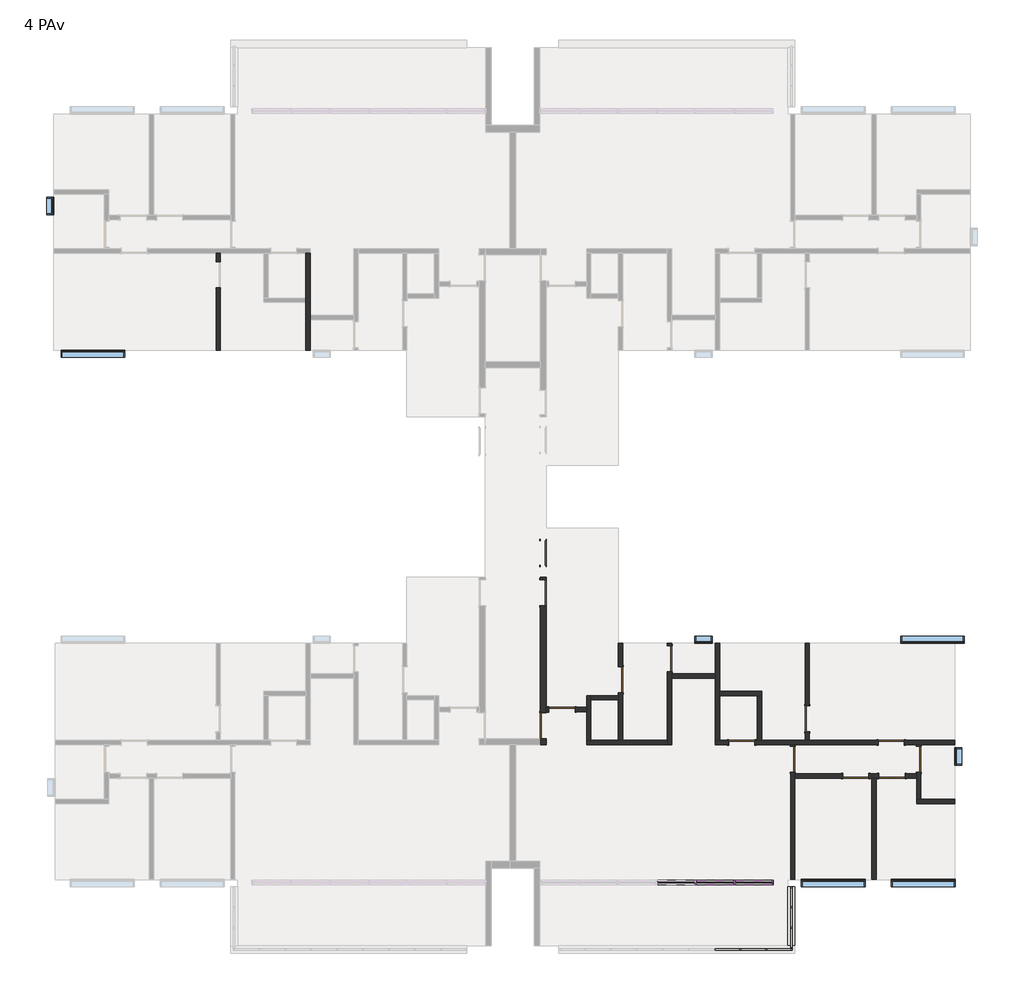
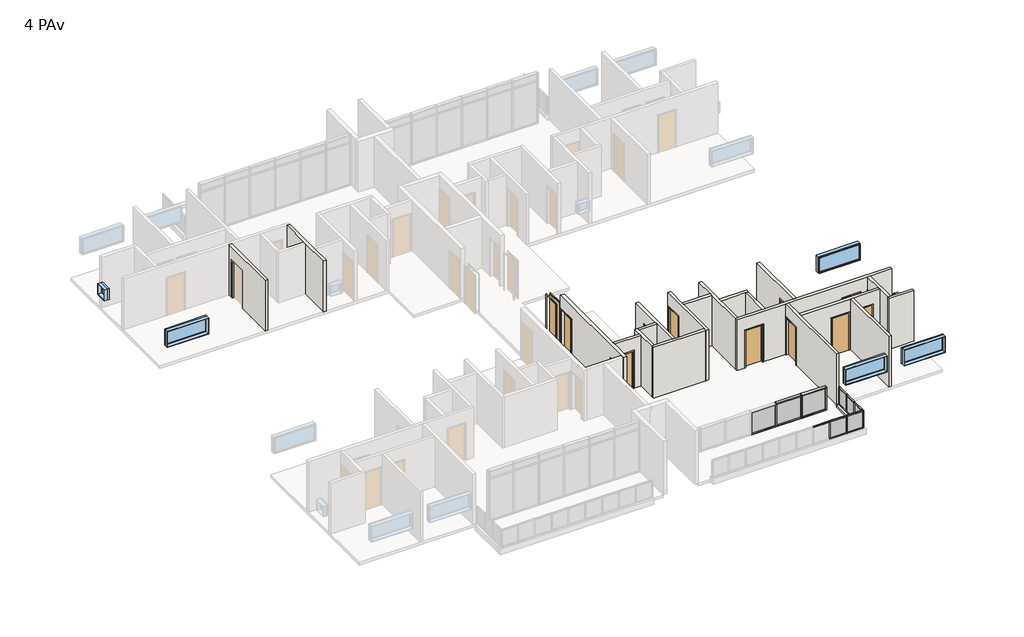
# One storey, part 3 of 6: 26 members, 21 walls, 13 doors, 8 plates, 7 windows.
"""IFC4 building model written with IfcOpenShell, lengths in millimetres."""

from ifc_helpers import new_model, si_unit, frame, origin, place, context, project, spatial, polyline, outline, extrude, faceted_brep, transform, mapped, element, save
from components import door_85_x_210_7675e995, door_90_x_210_ee935524, door_90_x_210_565370b3, door_90_x_210_fbafd55c, montante_retangular_50_mm_quadrado_4acded50, montante_retangular_50_mm_quadrado_237d7072, montante_retangular_50_mm_quadrado_84e40a56, montante_retangular_50_mm_quadrado_3d152aff, montante_retangular_50_mm_quadrado_a01005a4, montante_retangular_50_mm_quadrado_ddd80bd7, montante_retangular_50_x_150_mm_6217edde, montante_retangular_50_x_150_mm_a22249d7, montante_retangular_50_x_150_mm_d0db7fae, montante_retangular_50_x_150_mm_1e3c48d4, painel_do_sistema_57ceaf50, painel_do_sistema_ab0ed719, painel_do_sistema_0196877a, painel_do_sistema_2aa81470, painel_do_sistema_7de0e0b4, painel_do_sistema_09324d20, window_0610_x_0610_mm_da1d4716, window_0610_x_0610_mm_b5667cc9, window_220_x_90_84e01c73

model = new_model("IFC4")

# Units and contexts
model_context = context("Model", 3, world=origin())
ifc_project = project(units=[si_unit("LENGTHUNIT", "METRE", prefix="MILLI")], contexts=[model_context])

# Site, building, storey
site = spatial("IfcSite", under=ifc_project)
building = spatial("IfcBuilding", under=site)
storey = spatial("IfcBuildingStorey", under=building, Name="4 PAv", Elevation=12000.0)

# Doors
placement = place(None, origin())
door_85_x_210_shape = door_85_x_210_7675e995(model_context)
element("IfcDoor", 1, ObjectType="M_Descarga simples : 85 x 210", at=placement, inside=storey, context=model_context, shape_type="MappedRepresentation", body=[
    mapped(door_85_x_210_shape, transform((23.7734258, -1171.3385375, 12000.0), x_axis=(0.0, -1.0, 0.0), y_axis=(1.0, 0.0, 0.0), z_axis=(0.0, 0.0, 1.0))),
])
door_90_x_210_shape = door_90_x_210_ee935524(model_context)
element("IfcDoor", 2, ObjectType="M_Descarga simples : 90 x 210", at=placement, inside=storey, context=model_context, shape_type="MappedRepresentation", body=[
    mapped(door_90_x_210_shape, transform((12063.7734258, -8861.3385375, 12000.0), x_axis=(-1.0, 0.0, 0.0), y_axis=(0.0, -1.0, 0.0), z_axis=(0.0, 0.0, 1.0))),
])
element("IfcDoor", 3, ObjectType="M_Descarga simples : 90 x 210", at=placement, inside=storey, context=model_context, shape_type="MappedRepresentation", body=[
    mapped(door_90_x_210_shape, transform((12043.7734258, -7711.3385375, 12000.0), x_axis=(1.0, 0.0, 0.0), y_axis=(0.0, 1.0, 0.0), z_axis=(0.0, 0.0, 1.0))),
])
element("IfcDoor", 4, ObjectType="M_Descarga simples : 90 x 210", at=placement, inside=storey, context=model_context, shape_type="MappedRepresentation", body=[
    mapped(door_90_x_210_shape, transform((6883.7734258, -7711.3385375, 12000.0), x_axis=(1.0, 0.0, 0.0), y_axis=(0.0, 1.0, 0.0), z_axis=(0.0, 0.0, 1.0))),
])
door_90_x_210_2_shape = door_90_x_210_565370b3(model_context)
element("IfcDoor", 5, ObjectType="M_Descarga simples : 90 x 210", at=placement, inside=storey, context=model_context, shape_type="MappedRepresentation", body=[
    mapped(door_90_x_210_2_shape, transform((673.7734258, -6571.3385375, 12000.0), x_axis=(-1.0, 0.0, 0.0), y_axis=(0.0, -1.0, 0.0), z_axis=(0.0, 0.0, 1.0))),
])
element("IfcDoor", 6, ObjectType="M_Descarga simples : 90 x 210", at=placement, inside=storey, context=model_context, shape_type="MappedRepresentation", body=[
    mapped(door_90_x_210_2_shape, transform((2698.7734258, -5536.3385375, 12000.0), x_axis=(0.0, 1.0, 0.0), y_axis=(-1.0, 0.0, 0.0), z_axis=(0.0, 0.0, 1.0))),
])
element("IfcDoor", 7, ObjectType="M_Descarga simples : 90 x 210", at=placement, inside=storey, context=model_context, shape_type="MappedRepresentation", body=[
    mapped(door_90_x_210_2_shape, transform((4388.7734258, -4811.3385375, 12000.0), x_axis=(0.0, 1.0, 0.0), y_axis=(-1.0, 0.0, 0.0), z_axis=(0.0, 0.0, 1.0))),
])
element("IfcDoor", 8, ObjectType="M_Descarga simples : 90 x 210", at=placement, inside=storey, context=model_context, shape_type="MappedRepresentation", body=[
    mapped(door_90_x_210_2_shape, transform((9138.7734258, -6886.3385375, 12000.0), x_axis=(0.0, -1.0, 0.0), y_axis=(1.0, 0.0, 0.0), z_axis=(0.0, 0.0, 1.0))),
])
element("IfcDoor", 9, ObjectType="M_Descarga simples : 90 x 210", at=placement, inside=storey, context=model_context, shape_type="MappedRepresentation", body=[
    mapped(door_90_x_210_2_shape, transform((8638.7734258, -8286.3385375, 12000.0), x_axis=(0.0, 1.0, 0.0), y_axis=(-1.0, 0.0, 0.0), z_axis=(0.0, 0.0, 1.0))),
])
element("IfcDoor", 10, ObjectType="M_Descarga simples : 90 x 210", at=placement, inside=storey, context=model_context, shape_type="MappedRepresentation", body=[
    mapped(door_90_x_210_2_shape, transform((12988.7734258, -8286.3385375, 12000.0), x_axis=(0.0, 1.0, 0.0), y_axis=(-1.0, 0.0, 0.0), z_axis=(0.0, 0.0, 1.0))),
])
element("IfcDoor", 11, ObjectType="M_Descarga simples : 90 x 210", at=placement, inside=storey, context=model_context, shape_type="MappedRepresentation", body=[
    mapped(door_90_x_210_2_shape, transform((10813.7734258, -8861.3385375, 12000.0), x_axis=(1.0, 0.0, 0.0), y_axis=(0.0, 1.0, 0.0), z_axis=(0.0, 0.0, 1.0))),
])
door_90_x_210_3_shape = door_90_x_210_fbafd55c(model_context)
element("IfcDoor", 12, ObjectType="M_Descarga simples : 90 x 210", at=placement, inside=storey, context=model_context, shape_type="MappedRepresentation", body=[
    mapped(door_90_x_210_3_shape, transform((23.7734258, -2546.3385375, 12000.0), x_axis=(0.0, 1.0, 0.0), y_axis=(-1.0, 0.0, 0.0), z_axis=(0.0, 0.0, 1.0))),
])
element("IfcDoor", 13, ObjectType="M_Descarga simples : 90 x 210", at=placement, inside=storey, context=model_context, shape_type="MappedRepresentation", body=[
    mapped(door_90_x_210_3_shape, transform((23.7734258, -7125.9292512, 12000.0), x_axis=(0.0, -1.0, 0.0), y_axis=(1.0, 0.0, 0.0), z_axis=(0.0, 0.0, 1.0))),
])

# Members
montante_retangular_50_mm_quadrado_shape = montante_retangular_50_mm_quadrado_4acded50(model_context)
element("IfcMember", 14, ObjectType="Montante retangular : 50 mm Quadrado", at=placement, inside=storey, context=model_context, shape_type="MappedRepresentation", body=[
    mapped(montante_retangular_50_mm_quadrado_shape, transform((8563.7734258, -14856.3385375, 13150.0), x_axis=(0.0, 0.0, 1.0), y_axis=(0.0, -1.0, 0.0), z_axis=(1.0, 0.0, 0.0))),
])
montante_retangular_50_mm_quadrado_2_shape = montante_retangular_50_mm_quadrado_237d7072(model_context)
element("IfcMember", 15, ObjectType="Montante retangular : 50 mm Quadrado", at=placement, inside=storey, context=model_context, shape_type="MappedRepresentation", body=[
    mapped(montante_retangular_50_mm_quadrado_2_shape, transform((6798.7734258, -14856.3385375, 13150.0), x_axis=(0.0, 0.0, 1.0), y_axis=(0.0, -1.0, 0.0), z_axis=(1.0, 0.0, 0.0))),
])
element("IfcMember", 16, ObjectType="Montante retangular : 50 mm Quadrado", at=placement, inside=storey, context=model_context, shape_type="MappedRepresentation", body=[
    mapped(montante_retangular_50_mm_quadrado_2_shape, transform((7693.7734258, -14856.3385375, 13150.0), x_axis=(0.0, 0.0, 1.0), y_axis=(0.0, -1.0, 0.0), z_axis=(1.0, 0.0, 0.0))),
])
element("IfcMember", 17, ObjectType="Montante retangular : 50 mm Quadrado", at=placement, inside=storey, context=model_context, shape_type="MappedRepresentation", body=[
    mapped(montante_retangular_50_mm_quadrado_shape, transform((7743.7734258, -14856.3385375, 12150.0), x_axis=(0.0, 0.0, -1.0), y_axis=(0.0, -1.0, 0.0), z_axis=(-1.0, 0.0, 0.0))),
])
element("IfcMember", 18, ObjectType="Montante retangular : 50 mm Quadrado", at=placement, inside=storey, context=model_context, shape_type="MappedRepresentation", body=[
    mapped(montante_retangular_50_mm_quadrado_2_shape, transform((6848.7734258, -14856.3385375, 12150.0), x_axis=(0.0, 0.0, -1.0), y_axis=(0.0, -1.0, 0.0), z_axis=(-1.0, 0.0, 0.0))),
])
montante_retangular_50_mm_quadrado_3_shape = montante_retangular_50_mm_quadrado_84e40a56(model_context)
element("IfcMember", 19, ObjectType="Montante retangular : 50 mm Quadrado", at=placement, inside=storey, context=model_context, shape_type="MappedRepresentation", body=[
    mapped(montante_retangular_50_mm_quadrado_3_shape, transform((6823.7734258, -14856.3385375, 12150.0), x_axis=(1.0, 0.0, 0.0), y_axis=(0.0, -1.0, 0.0), z_axis=(0.0, 0.0, -1.0))),
])
element("IfcMember", 20, ObjectType="Montante retangular : 50 mm Quadrado", at=placement, inside=storey, context=model_context, shape_type="MappedRepresentation", body=[
    mapped(montante_retangular_50_mm_quadrado_3_shape, transform((7718.7734258, -14856.3385375, 12150.0), x_axis=(1.0, 0.0, 0.0), y_axis=(0.0, -1.0, 0.0), z_axis=(0.0, 0.0, -1.0))),
])
element("IfcMember", 21, ObjectType="Montante retangular : 50 mm Quadrado", at=placement, inside=storey, context=model_context, shape_type="MappedRepresentation", body=[
    mapped(montante_retangular_50_mm_quadrado_3_shape, transform((8588.7734258, -14116.3385375, 12150.0), x_axis=(0.0, 1.0, 0.0), y_axis=(1.0, 0.0, 0.0), z_axis=(0.0, 0.0, -1.0))),
])
element("IfcMember", 22, ObjectType="Montante retangular : 50 mm Quadrado", at=placement, inside=storey, context=model_context, shape_type="MappedRepresentation", body=[
    mapped(montante_retangular_50_mm_quadrado_3_shape, transform((8588.7734258, -13401.3385375, 12150.0), x_axis=(0.0, 1.0, 0.0), y_axis=(1.0, 0.0, 0.0), z_axis=(0.0, 0.0, -1.0))),
])
montante_retangular_50_mm_quadrado_4_shape = montante_retangular_50_mm_quadrado_3d152aff(model_context)
element("IfcMember", 23, ObjectType="Montante retangular : 50 mm Quadrado", at=placement, inside=storey, context=model_context, shape_type="MappedRepresentation", body=[
    mapped(montante_retangular_50_mm_quadrado_4_shape, transform((8613.7734258, -14856.3385375, 12150.0), x_axis=(1.0, 0.0, 0.0), y_axis=(0.0, -1.0, 0.0), z_axis=(0.0, 0.0, -1.0))),
])
element("IfcMember", 24, ObjectType="Montante retangular : 50 mm Quadrado", at=placement, inside=storey, context=model_context, shape_type="MappedRepresentation", body=[
    mapped(montante_retangular_50_mm_quadrado_4_shape, transform((8588.7734258, -12686.3385375, 12150.0), x_axis=(0.0, 1.0, 0.0), y_axis=(1.0, 0.0, 0.0), z_axis=(0.0, 0.0, -1.0))),
])
element("IfcMember", 25, ObjectType="Montante retangular : 50 mm Quadrado", at=placement, inside=storey, context=model_context, shape_type="MappedRepresentation", body=[
    mapped(montante_retangular_50_mm_quadrado_4_shape, transform((8588.7734258, -14831.3385375, 13150.0), x_axis=(0.0, -1.0, 0.0), y_axis=(1.0, 0.0, 0.0), z_axis=(0.0, 0.0, 1.0))),
])
montante_retangular_50_mm_quadrado_5_shape = montante_retangular_50_mm_quadrado_a01005a4(model_context)
element("IfcMember", 26, ObjectType="Montante retangular : 50 mm Quadrado", at=placement, inside=storey, context=model_context, shape_type="MappedRepresentation", body=[
    mapped(montante_retangular_50_mm_quadrado_5_shape, transform((8588.7734258, -12736.3385375, 13150.0), x_axis=(0.0, 0.0, 1.0), y_axis=(1.0, 0.0, 0.0), z_axis=(0.0, 1.0, 0.0))),
])
element("IfcMember", 27, ObjectType="Montante retangular : 50 mm Quadrado", at=placement, inside=storey, context=model_context, shape_type="MappedRepresentation", body=[
    mapped(montante_retangular_50_mm_quadrado_5_shape, transform((8588.7734258, -14141.3385375, 13150.0), x_axis=(0.0, 0.0, 1.0), y_axis=(1.0, 0.0, 0.0), z_axis=(0.0, 1.0, 0.0))),
])
montante_retangular_50_mm_quadrado_6_shape = montante_retangular_50_mm_quadrado_ddd80bd7(model_context)
element("IfcMember", 28, ObjectType="Montante retangular : 50 mm Quadrado", at=placement, inside=storey, context=model_context, shape_type="MappedRepresentation", body=[
    mapped(montante_retangular_50_mm_quadrado_6_shape, transform((8588.7734258, -13426.3385375, 13150.0), x_axis=(0.0, 0.0, 1.0), y_axis=(1.0, 0.0, 0.0), z_axis=(0.0, 1.0, 0.0))),
])
element("IfcMember", 29, ObjectType="Montante retangular : 50 mm Quadrado", at=placement, inside=storey, context=model_context, shape_type="MappedRepresentation", body=[
    mapped(montante_retangular_50_mm_quadrado_5_shape, transform((8588.7734258, -14781.3385375, 12150.0), x_axis=(0.0, 0.0, -1.0), y_axis=(1.0, 0.0, 0.0), z_axis=(0.0, -1.0, 0.0))),
])
element("IfcMember", 30, ObjectType="Montante retangular : 50 mm Quadrado", at=placement, inside=storey, context=model_context, shape_type="MappedRepresentation", body=[
    mapped(montante_retangular_50_mm_quadrado_5_shape, transform((8588.7734258, -13376.3385375, 12150.0), x_axis=(0.0, 0.0, -1.0), y_axis=(1.0, 0.0, 0.0), z_axis=(0.0, -1.0, 0.0))),
])
element("IfcMember", 31, ObjectType="Montante retangular : 50 mm Quadrado", at=placement, inside=storey, context=model_context, shape_type="MappedRepresentation", body=[
    mapped(montante_retangular_50_mm_quadrado_6_shape, transform((8588.7734258, -14091.3385375, 12150.0), x_axis=(0.0, 0.0, -1.0), y_axis=(1.0, 0.0, 0.0), z_axis=(0.0, -1.0, 0.0))),
])
montante_retangular_50_x_150_mm_shape = montante_retangular_50_x_150_mm_6217edde(model_context)
element("IfcMember", 32, ObjectType="Montante retangular : 50 x 150 mm", at=placement, inside=storey, context=model_context, shape_type="MappedRepresentation", body=[
    mapped(montante_retangular_50_x_150_mm_shape, transform((6654.6067592, -12536.3385375, 13300.0), x_axis=(0.0, 0.0, 1.0), y_axis=(0.0, 1.0, 0.0), z_axis=(-1.0, 0.0, 0.0))),
])
montante_retangular_50_x_150_mm_2_shape = montante_retangular_50_x_150_mm_a22249d7(model_context)
element("IfcMember", 33, ObjectType="Montante retangular : 50 x 150 mm", at=placement, inside=storey, context=model_context, shape_type="MappedRepresentation", body=[
    mapped(montante_retangular_50_x_150_mm_2_shape, transform((5310.4400925, -12536.3385375, 13300.0), x_axis=(0.0, 0.0, 1.0), y_axis=(0.0, 1.0, 0.0), z_axis=(-1.0, 0.0, 0.0))),
])
element("IfcMember", 34, ObjectType="Montante retangular : 50 x 150 mm", at=placement, inside=storey, context=model_context, shape_type="MappedRepresentation", body=[
    mapped(montante_retangular_50_x_150_mm_shape, transform((7923.7734258, -12536.3385375, 12000.0), x_axis=(0.0, 0.0, -1.0), y_axis=(0.0, 1.0, 0.0), z_axis=(1.0, 0.0, 0.0))),
])
element("IfcMember", 35, ObjectType="Montante retangular : 50 x 150 mm", at=placement, inside=storey, context=model_context, shape_type="MappedRepresentation", body=[
    mapped(montante_retangular_50_x_150_mm_2_shape, transform((6604.6067592, -12536.3385375, 12000.0), x_axis=(0.0, 0.0, -1.0), y_axis=(0.0, 1.0, 0.0), z_axis=(1.0, 0.0, 0.0))),
])
element("IfcMember", 36, ObjectType="Montante retangular : 50 x 150 mm", at=placement, inside=storey, context=model_context, shape_type="MappedRepresentation", body=[
    mapped(montante_retangular_50_x_150_mm_2_shape, transform((5260.4400925, -12536.3385375, 12000.0), x_axis=(0.0, 0.0, -1.0), y_axis=(0.0, 1.0, 0.0), z_axis=(1.0, 0.0, 0.0))),
])
montante_retangular_50_x_150_mm_3_shape = montante_retangular_50_x_150_mm_d0db7fae(model_context)
element("IfcMember", 37, ObjectType="Montante retangular : 50 x 150 mm", at=placement, inside=storey, context=model_context, shape_type="MappedRepresentation", body=[
    mapped(montante_retangular_50_x_150_mm_3_shape, transform((6629.6067592, -12536.3385375, 12000.0), x_axis=(-1.0, 0.0, 0.0), y_axis=(0.0, 1.0, 0.0), z_axis=(0.0, 0.0, -1.0))),
])
element("IfcMember", 38, ObjectType="Montante retangular : 50 x 150 mm", at=placement, inside=storey, context=model_context, shape_type="MappedRepresentation", body=[
    mapped(montante_retangular_50_x_150_mm_3_shape, transform((5285.4400925, -12536.3385375, 12000.0), x_axis=(-1.0, 0.0, 0.0), y_axis=(0.0, 1.0, 0.0), z_axis=(0.0, 0.0, -1.0))),
])
montante_retangular_50_x_150_mm_4_shape = montante_retangular_50_x_150_mm_1e3c48d4(model_context)
element("IfcMember", 39, ObjectType="Montante retangular : 50 x 150 mm", at=placement, inside=storey, context=model_context, shape_type="MappedRepresentation", body=[
    mapped(montante_retangular_50_x_150_mm_4_shape, transform((7973.7734258, -12536.3385375, 13300.0), x_axis=(1.0, 0.0, 0.0), y_axis=(0.0, 1.0, 0.0), z_axis=(0.0, 0.0, 1.0))),
])

# Plates
painel_do_sistema_shape = painel_do_sistema_57ceaf50(model_context)
element("IfcPlate", 40, ObjectType="Painel do sistema : Envidraçado", at=placement, inside=storey, context=model_context, shape_type="MappedRepresentation", body=[
    mapped(painel_do_sistema_shape, transform((8153.7734258, -14856.3385375, 12200.0), x_axis=(1.0, 0.0, 0.0), y_axis=(0.0, 1.0, 0.0), z_axis=(0.0, 0.0, 1.0))),
])
painel_do_sistema_2_shape = painel_do_sistema_ab0ed719(model_context)
element("IfcPlate", 41, ObjectType="Painel do sistema : Envidraçado", at=placement, inside=storey, context=model_context, shape_type="MappedRepresentation", body=[
    mapped(painel_do_sistema_2_shape, transform((7271.2734258, -14856.3385375, 12200.0), x_axis=(1.0, 0.0, 0.0), y_axis=(0.0, 1.0, 0.0), z_axis=(0.0, 0.0, 1.0))),
])
painel_do_sistema_3_shape = painel_do_sistema_0196877a(model_context)
element("IfcPlate", 42, ObjectType="Painel do sistema : Envidraçado", at=placement, inside=storey, context=model_context, shape_type="MappedRepresentation", body=[
    mapped(painel_do_sistema_3_shape, transform((8588.7734258, -14461.3385375, 12200.0), x_axis=(0.0, 1.0, 0.0), y_axis=(-1.0, 0.0, 0.0), z_axis=(0.0, 0.0, 1.0))),
])
element("IfcPlate", 43, ObjectType="Painel do sistema : Envidraçado", at=placement, inside=storey, context=model_context, shape_type="MappedRepresentation", body=[
    mapped(painel_do_sistema_3_shape, transform((8588.7734258, -13056.3385375, 12200.0), x_axis=(0.0, 1.0, 0.0), y_axis=(-1.0, 0.0, 0.0), z_axis=(0.0, 0.0, 1.0))),
])
painel_do_sistema_4_shape = painel_do_sistema_2aa81470(model_context)
element("IfcPlate", 44, ObjectType="Painel do sistema : Envidraçado", at=placement, inside=storey, context=model_context, shape_type="MappedRepresentation", body=[
    mapped(painel_do_sistema_4_shape, transform((8588.7734258, -13758.8385375, 12200.0), x_axis=(0.0, 1.0, 0.0), y_axis=(-1.0, 0.0, 0.0), z_axis=(0.0, 0.0, 1.0))),
])
painel_do_sistema_5_shape = painel_do_sistema_7de0e0b4(model_context)
element("IfcPlate", 45, ObjectType="Painel do sistema : Envidraçado", at=placement, inside=storey, context=model_context, shape_type="MappedRepresentation", body=[
    mapped(painel_do_sistema_5_shape, transform((7289.1900925, -12536.3385375, 12050.0), x_axis=(-1.0, 0.0, 0.0), y_axis=(0.0, -1.0, 0.0), z_axis=(0.0, 0.0, 1.0))),
])
painel_do_sistema_6_shape = painel_do_sistema_09324d20(model_context)
element("IfcPlate", 46, ObjectType="Painel do sistema : Envidraçado", at=placement, inside=storey, context=model_context, shape_type="MappedRepresentation", body=[
    mapped(painel_do_sistema_6_shape, transform((5957.5234258, -12536.3385375, 12050.0), x_axis=(-1.0, 0.0, 0.0), y_axis=(0.0, -1.0, 0.0), z_axis=(0.0, 0.0, 1.0))),
])
element("IfcPlate", 47, ObjectType="Painel do sistema : Envidraçado", at=placement, inside=storey, context=model_context, shape_type="MappedRepresentation", body=[
    mapped(painel_do_sistema_6_shape, transform((4613.3567592, -12536.3385375, 12050.0), x_axis=(-1.0, 0.0, 0.0), y_axis=(0.0, -1.0, 0.0), z_axis=(0.0, 0.0, 1.0))),
])

# Walls
element("IfcWall", 48, ObjectType="Exeterna 25", at=placement, inside=storey, context=model_context, shape_type="SweptSolid", body=[
    extrude(outline(polyline([(8713.7734258, -12686.3385375), (8713.7734258, -14731.3385375), (8463.7734258, -14731.3385375), (8463.7734258, -12686.3385375), (8713.7734258, -12686.3385375)])), frame((0.0, 0.0, 11850.0), z_axis=(0.0, 0.0, 1.0), x_axis=(1.0, 0.0, 0.0)), (0.0, 0.0, 1.0), 300.0),
])
element("IfcWall", 49, ObjectType="Interna 15", at=placement, inside=storey, context=model_context, shape_type="Brep", body=[
    faceted_brep([(-8166.2265742, 9183.6614625, 12000.0), (-8166.2265742, 7633.6614625, 12000.0), (-8166.2265742, 7483.6614625, 12000.0), (-8166.2265742, 5833.6614625, 12000.0), (-8166.2265742, 5833.6614625, 14850.0), (-8166.2265742, 7483.6614625, 14850.0), (-8166.2265742, 7633.6614625, 14850.0), (-8166.2265742, 9183.6614625, 14850.0), (-8016.2265742, 9183.6614625, 12000.0), (-8016.2265742, 9183.6614625, 14850.0), (-8016.2265742, 7033.6614625, 14850.0), (-8016.2265742, 6883.6614625, 14850.0), (-8016.2265742, 5833.6614625, 14850.0), (-8016.2265742, 5833.6614625, 12000.0), (-8016.2265742, 6883.6614625, 12000.0), (-8016.2265742, 7033.6614625, 12000.0)], [[[0, 1, 2, 3, 4, 5, 6, 7]], [[8, 9, 10, 11, 12, 13, 14, 15]], [[3, 2, 1, 0, 8, 15, 14, 13]], [[7, 6, 5, 4, 12, 11, 10, 9]], [[0, 7, 9, 8]], [[4, 3, 13, 12]]]),
])
element("IfcWall", 50, ObjectType="Interna 15", at=placement, inside=storey, context=model_context, shape_type="SweptSolid", body=[
    extrude(outline(polyline([(9183.6614625, 12000.0), (8883.6614625, 12000.0), (8883.6614625, 14100.0), (7983.6614625, 14100.0), (7983.6614625, 12000.0), (5833.6614625, 12000.0), (5833.6614625, 14850.0), (9183.6614625, 14850.0), (9183.6614625, 12000.0)])), frame((-11266.2265742, 0.0, 0.0), z_axis=(1.0, 0.0, 0.0), x_axis=(0.0, 1.0, 0.0)), (0.0, 0.0, 1.0), 150.0),
])
element("IfcWall", 51, ObjectType="Interna 15", at=placement, inside=storey, context=model_context, shape_type="Brep", body=[
    faceted_brep([(8713.7734258, -7836.3385375, 14100.0), (8713.7734258, -7836.3385375, 12000.0), (8713.7734258, -7786.3385375, 12000.0), (8713.7734258, -7786.3385375, 14850.0), (8713.7734258, -8786.3385375, 14850.0), (8713.7734258, -8936.3385375, 14850.0), (8713.7734258, -12436.3385375, 14850.0), (8713.7734258, -12436.3385375, 12000.0), (8713.7734258, -8936.3385375, 12000.0), (8713.7734258, -8786.3385375, 12000.0), (8713.7734258, -8736.3385375, 12000.0), (8713.7734258, -8736.3385375, 14100.0), (8563.7734258, -7786.3385375, 12000.0), (8563.7734258, -7836.3385375, 12000.0), (8563.7734258, -7836.3385375, 14100.0), (8563.7734258, -8736.3385375, 14100.0), (8563.7734258, -8736.3385375, 12000.0), (8563.7734258, -12436.3385375, 12000.0), (8563.7734258, -12436.3385375, 14850.0), (8563.7734258, -7786.3385375, 14850.0)], [[[0, 1, 2, 3, 4, 5, 6, 7, 8, 9, 10, 11]], [[12, 13, 14, 15, 16, 17, 18, 19]], [[2, 1, 13, 12]], [[10, 9, 8, 7, 17, 16]], [[6, 5, 4, 3, 19, 18]], [[3, 2, 12, 19]], [[14, 13, 1, 0]], [[15, 14, 0, 11]], [[16, 15, 11, 10]], [[7, 6, 18, 17]]]),
])
element("IfcWall", 52, ObjectType="Interna 15", at=placement, inside=storey, context=model_context, shape_type="Brep", body=[
    faceted_brep([(11263.7734258, -8936.3385375, 12000.0), (11363.7734258, -8936.3385375, 12000.0), (11513.7734258, -8936.3385375, 12000.0), (11613.7734258, -8936.3385375, 12000.0), (11613.7734258, -8936.3385375, 14100.0), (12513.7734258, -8936.3385375, 14100.0), (12513.7734258, -8936.3385375, 12000.0), (12913.7734258, -8936.3385375, 12000.0), (12913.7734258, -8936.3385375, 14850.0), (11513.7734258, -8936.3385375, 14850.0), (11363.7734258, -8936.3385375, 14850.0), (8713.7734258, -8936.3385375, 14850.0), (8713.7734258, -8936.3385375, 12000.0), (10363.7734258, -8936.3385375, 12000.0), (10363.7734258, -8936.3385375, 14100.0), (11263.7734258, -8936.3385375, 14100.0), (11613.7734258, -8786.3385375, 14100.0), (11613.7734258, -8786.3385375, 12000.0), (11263.7734258, -8786.3385375, 12000.0), (11263.7734258, -8786.3385375, 14100.0), (10363.7734258, -8786.3385375, 14100.0), (10363.7734258, -8786.3385375, 12000.0), (8713.7734258, -8786.3385375, 12000.0), (8713.7734258, -8786.3385375, 14850.0), (12913.7734258, -8786.3385375, 14850.0), (12913.7734258, -8786.3385375, 12000.0), (12513.7734258, -8786.3385375, 12000.0), (12513.7734258, -8786.3385375, 14100.0)], [[[0, 1, 2, 3, 4, 5, 6, 7, 8, 9, 10, 11, 12, 13, 14, 15]], [[16, 17, 18, 19, 20, 21, 22, 23, 24, 25, 26, 27]], [[13, 12, 22, 21]], [[26, 25, 7, 6]], [[18, 17, 3, 2, 1, 0]], [[11, 10, 9, 8, 24, 23]], [[12, 11, 23, 22]], [[8, 7, 25, 24]], [[4, 3, 17, 16]], [[5, 4, 16, 27]], [[6, 5, 27, 26]], [[19, 18, 0, 15]], [[20, 19, 15, 14]], [[21, 20, 14, 13]]]),
])
element("IfcWall", 53, ObjectType="Interna 15", at=placement, inside=storey, context=model_context, shape_type="SweptSolid", body=[
    extrude(outline(polyline([(11363.7734258, -12436.3385375), (11363.7734258, -8936.3385375), (11513.7734258, -8936.3385375), (11513.7734258, -12436.3385375), (11363.7734258, -12436.3385375)])), frame((0.0, 0.0, 12000.0), z_axis=(0.0, 0.0, 1.0), x_axis=(1.0, 0.0, 0.0)), (0.0, 0.0, 1.0), 2850.0),
])
element("IfcWall", 54, ObjectType="Interna 15", at=placement, inside=storey, context=model_context, shape_type="Brep", body=[
    faceted_brep([(14223.269929, -9666.3385375, 12000.0), (13063.7734258, -9666.3385375, 12000.0), (12913.7734258, -9666.3385375, 12000.0), (12913.7734258, -9666.3385375, 14850.0), (13063.7734258, -9666.3385375, 14850.0), (14223.269929, -9666.3385375, 14850.0), (14223.269929, -9816.3385375, 12000.0), (14223.269929, -9816.3385375, 14850.0), (12913.7734258, -9816.3385375, 14850.0), (12913.7734258, -9816.3385375, 12000.0)], [[[0, 1, 2, 3, 4, 5]], [[6, 7, 8, 9]], [[2, 1, 0, 6, 9]], [[5, 4, 3, 8, 7]], [[3, 2, 9, 8]], [[0, 5, 7, 6]]]),
])
element("IfcWall", 55, ObjectType="Interna 15", at=placement, inside=storey, context=model_context, shape_type="Brep", body=[
    faceted_brep([(13063.7734258, -7836.3385375, 14100.0), (13063.7734258, -7836.3385375, 12000.0), (13063.7734258, -7786.3385375, 12000.0), (13063.7734258, -7786.3385375, 14850.0), (13063.7734258, -9666.3385375, 14850.0), (13063.7734258, -9666.3385375, 12000.0), (13063.7734258, -8736.3385375, 12000.0), (13063.7734258, -8736.3385375, 14100.0), (12913.7734258, -7786.3385375, 12000.0), (12913.7734258, -7836.3385375, 12000.0), (12913.7734258, -7836.3385375, 14100.0), (12913.7734258, -8736.3385375, 14100.0), (12913.7734258, -8736.3385375, 12000.0), (12913.7734258, -8786.3385375, 12000.0), (12913.7734258, -8936.3385375, 12000.0), (12913.7734258, -9666.3385375, 12000.0), (12913.7734258, -9666.3385375, 14850.0), (12913.7734258, -8936.3385375, 14850.0), (12913.7734258, -8786.3385375, 14850.0), (12913.7734258, -7786.3385375, 14850.0)], [[[0, 1, 2, 3, 4, 5, 6, 7]], [[8, 9, 10, 11, 12, 13, 14, 15, 16, 17, 18, 19]], [[6, 5, 15, 14, 13, 12]], [[2, 1, 9, 8]], [[4, 3, 19, 18, 17, 16]], [[3, 2, 8, 19]], [[5, 4, 16, 15]], [[10, 9, 1, 0]], [[11, 10, 0, 7]], [[12, 11, 7, 6]]]),
])
element("IfcWall", 56, ObjectType="Interna 15", at=placement, inside=storey, context=model_context, shape_type="Brep", body=[
    faceted_brep([(11593.7734258, -7636.3385375, 12000.0), (9213.7734258, -7636.3385375, 12000.0), (9063.7734258, -7636.3385375, 12000.0), (7563.7734258, -7636.3385375, 12000.0), (7413.7734258, -7636.3385375, 12000.0), (7333.7734258, -7636.3385375, 12000.0), (7333.7734258, -7636.3385375, 14100.0), (6433.7734258, -7636.3385375, 14100.0), (6433.7734258, -7636.3385375, 12000.0), (6113.7734258, -7636.3385375, 12000.0), (5963.7734258, -7636.3385375, 12000.0), (5963.7734258, -7636.3385375, 14850.0), (6113.7734258, -7636.3385375, 14850.0), (7413.7734258, -7636.3385375, 14850.0), (7563.7734258, -7636.3385375, 14850.0), (9063.7734258, -7636.3385375, 14850.0), (9213.7734258, -7636.3385375, 14850.0), (14223.269929, -7636.3385375, 14850.0), (14223.269929, -7636.3385375, 12000.0), (12493.7734258, -7636.3385375, 12000.0), (12493.7734258, -7636.3385375, 14100.0), (11593.7734258, -7636.3385375, 14100.0), (7333.7734258, -7786.3385375, 14100.0), (7333.7734258, -7786.3385375, 12000.0), (8563.7734258, -7786.3385375, 12000.0), (8713.7734258, -7786.3385375, 12000.0), (11593.7734258, -7786.3385375, 12000.0), (11593.7734258, -7786.3385375, 14100.0), (12493.7734258, -7786.3385375, 14100.0), (12493.7734258, -7786.3385375, 12000.0), (12913.7734258, -7786.3385375, 12000.0), (13063.7734258, -7786.3385375, 12000.0), (14223.269929, -7786.3385375, 12000.0), (14223.269929, -7786.3385375, 14850.0), (13063.7734258, -7786.3385375, 14850.0), (12913.7734258, -7786.3385375, 14850.0), (8713.7734258, -7786.3385375, 14850.0), (8563.7734258, -7786.3385375, 14850.0), (5963.7734258, -7786.3385375, 14850.0), (5963.7734258, -7786.3385375, 12000.0), (6433.7734258, -7786.3385375, 12000.0), (6433.7734258, -7786.3385375, 14100.0)], [[[0, 1, 2, 3, 4, 5, 6, 7, 8, 9, 10, 11, 12, 13, 14, 15, 16, 17, 18, 19, 20, 21]], [[22, 23, 24, 25, 26, 27, 28, 29, 30, 31, 32, 33, 34, 35, 36, 37, 38, 39, 40, 41]], [[40, 39, 10, 9, 8]], [[26, 25, 24, 23, 5, 4, 3, 2, 1, 0]], [[32, 31, 30, 29, 19, 18]], [[17, 16, 15, 14, 13, 12, 11, 38, 37, 36, 35, 34, 33]], [[11, 10, 39, 38]], [[6, 5, 23, 22]], [[7, 6, 22, 41]], [[8, 7, 41, 40]], [[20, 19, 29, 28]], [[21, 20, 28, 27]], [[0, 21, 27, 26]], [[18, 17, 33, 32]]]),
])
element("IfcWall", 57, ObjectType="Interna 15", at=placement, inside=storey, context=model_context, shape_type="Brep", body=[
    faceted_brep([(6113.7734258, -7636.3385375, 12000.0), (6113.7734258, -6086.3385375, 12000.0), (6113.7734258, -5936.3385375, 12000.0), (6113.7734258, -4286.3385375, 12000.0), (6113.7734258, -4286.3385375, 14850.0), (6113.7734258, -5936.3385375, 14850.0), (6113.7734258, -6086.3385375, 14850.0), (6113.7734258, -7636.3385375, 14850.0), (5963.7734258, -7636.3385375, 12000.0), (5963.7734258, -7636.3385375, 14850.0), (5963.7734258, -5486.3385375, 14850.0), (5963.7734258, -5336.3385375, 14850.0), (5963.7734258, -4286.3385375, 14850.0), (5963.7734258, -4286.3385375, 12000.0), (5963.7734258, -5336.3385375, 12000.0), (5963.7734258, -5486.3385375, 12000.0)], [[[0, 1, 2, 3, 4, 5, 6, 7]], [[8, 9, 10, 11, 12, 13, 14, 15]], [[3, 2, 1, 0, 8, 15, 14, 13]], [[7, 6, 5, 4, 12, 11, 10, 9]], [[0, 7, 9, 8]], [[4, 3, 13, 12]]]),
])
element("IfcWall", 58, ObjectType="Interna 15", at=placement, inside=storey, context=model_context, shape_type="Brep", body=[
    faceted_brep([(6113.7734258, -6086.3385375, 12000.0), (7413.7734258, -6086.3385375, 12000.0), (7563.7734258, -6086.3385375, 12000.0), (7563.7734258, -6086.3385375, 14850.0), (7413.7734258, -6086.3385375, 14850.0), (6113.7734258, -6086.3385375, 14850.0), (6113.7734258, -5936.3385375, 12000.0), (6113.7734258, -5936.3385375, 14850.0), (7563.7734258, -5936.3385375, 14850.0), (7563.7734258, -5936.3385375, 12000.0)], [[[0, 1, 2, 3, 4, 5]], [[6, 7, 8, 9]], [[2, 1, 0, 6, 9]], [[5, 4, 3, 8, 7]], [[0, 5, 7, 6]], [[3, 2, 9, 8]]]),
])
element("IfcWall", 59, ObjectType="Interna 15", at=placement, inside=storey, context=model_context, shape_type="SweptSolid", body=[
    extrude(outline(polyline([(7413.7734258, -7636.3385375), (7413.7734258, -6086.3385375), (7563.7734258, -6086.3385375), (7563.7734258, -7636.3385375), (7413.7734258, -7636.3385375)])), frame((0.0, 0.0, 12000.0), z_axis=(0.0, 0.0, 1.0), x_axis=(1.0, 0.0, 0.0)), (0.0, 0.0, 1.0), 2850.0),
])
element("IfcWall", 60, ObjectType="Interna 15", at=placement, inside=storey, context=model_context, shape_type="SweptSolid", body=[
    extrude(outline(polyline([(-7336.3385375, 14100.0), (-7336.3385375, 12000.0), (-7636.3385375, 12000.0), (-7636.3385375, 14850.0), (-4286.3385375, 14850.0), (-4286.3385375, 12000.0), (-6436.3385375, 12000.0), (-6436.3385375, 14100.0), (-7336.3385375, 14100.0)])), frame((9063.7734258, 0.0, 0.0), z_axis=(1.0, 0.0, 0.0), x_axis=(0.0, 1.0, 0.0)), (0.0, 0.0, 1.0), 150.0),
])
element("IfcWall", 61, ObjectType="Interna 15", at=placement, inside=storey, context=model_context, shape_type="SweptSolid", body=[
    extrude(outline(polyline([(4463.7734258, -5336.3385375), (5963.7734258, -5336.3385375), (5963.7734258, -5486.3385375), (4463.7734258, -5486.3385375), (4463.7734258, -5336.3385375)])), frame((0.0, 0.0, 12000.0), z_axis=(0.0, 0.0, 1.0), x_axis=(1.0, 0.0, 0.0)), (0.0, 0.0, 1.0), 2850.0),
])
element("IfcWall", 62, ObjectType="Interna 15", at=placement, inside=storey, context=model_context, shape_type="Brep", body=[
    faceted_brep([(4313.7734258, -4286.3385375, 12000.0), (4313.7734258, -4361.3385375, 12000.0), (4313.7734258, -4361.3385375, 14100.0), (4313.7734258, -5261.3385375, 14100.0), (4313.7734258, -5261.3385375, 12000.0), (4313.7734258, -7636.3385375, 12000.0), (4313.7734258, -7786.3385375, 12000.0), (4313.7734258, -7786.3385375, 14850.0), (4313.7734258, -7636.3385375, 14850.0), (4313.7734258, -4286.3385375, 14850.0), (4463.7734258, -4361.3385375, 14100.0), (4463.7734258, -4361.3385375, 12000.0), (4463.7734258, -4286.3385375, 12000.0), (4463.7734258, -4286.3385375, 14850.0), (4463.7734258, -5336.3385375, 14850.0), (4463.7734258, -5486.3385375, 14850.0), (4463.7734258, -7786.3385375, 14850.0), (4463.7734258, -7786.3385375, 12000.0), (4463.7734258, -5486.3385375, 12000.0), (4463.7734258, -5336.3385375, 12000.0), (4463.7734258, -5261.3385375, 12000.0), (4463.7734258, -5261.3385375, 14100.0)], [[[0, 1, 2, 3, 4, 5, 6, 7, 8, 9]], [[10, 11, 12, 13, 14, 15, 16, 17, 18, 19, 20, 21]], [[12, 11, 1, 0]], [[20, 19, 18, 17, 6, 5, 4]], [[9, 8, 7, 16, 15, 14, 13]], [[7, 6, 17, 16]], [[2, 1, 11, 10]], [[3, 2, 10, 21]], [[4, 3, 21, 20]], [[0, 9, 13, 12]]]),
])
element("IfcWall", 63, ObjectType="Interna 15", at=placement, inside=storey, context=model_context, shape_type="Brep", body=[
    faceted_brep([(4313.7734258, -7636.3385375, 12000.0), (2773.7734258, -7636.3385375, 12000.0), (2623.7734258, -7636.3385375, 12000.0), (1673.7734258, -7636.3385375, 12000.0), (1523.7734258, -7636.3385375, 12000.0), (1523.7734258, -7636.3385375, 14850.0), (1673.7734258, -7636.3385375, 14850.0), (2623.7734258, -7636.3385375, 14850.0), (2773.7734258, -7636.3385375, 14850.0), (4313.7734258, -7636.3385375, 14850.0), (4313.7734258, -7786.3385375, 12000.0), (4313.7734258, -7786.3385375, 14850.0), (1523.7734258, -7786.3385375, 14850.0), (1523.7734258, -7786.3385375, 12000.0)], [[[0, 1, 2, 3, 4, 5, 6, 7, 8, 9]], [[10, 11, 12, 13]], [[4, 3, 2, 1, 0, 10, 13]], [[9, 8, 7, 6, 5, 12, 11]], [[0, 9, 11, 10]], [[5, 4, 13, 12]]]),
])
element("IfcWall", 64, ObjectType="Interna 15", at=placement, inside=storey, context=model_context, shape_type="Brep", body=[
    faceted_brep([(2773.7734258, -5086.3385375, 14100.0), (2773.7734258, -5086.3385375, 12000.0), (2773.7734258, -4286.3385375, 12000.0), (2773.7734258, -4286.3385375, 14850.0), (2773.7734258, -7636.3385375, 14850.0), (2773.7734258, -7636.3385375, 12000.0), (2773.7734258, -5986.3385375, 12000.0), (2773.7734258, -5986.3385375, 14100.0), (2623.7734258, -4286.3385375, 12000.0), (2623.7734258, -5086.3385375, 12000.0), (2623.7734258, -5086.3385375, 14100.0), (2623.7734258, -5986.3385375, 14100.0), (2623.7734258, -5986.3385375, 12000.0), (2623.7734258, -6086.3385375, 12000.0), (2623.7734258, -6236.3385375, 12000.0), (2623.7734258, -7636.3385375, 12000.0), (2623.7734258, -7636.3385375, 14850.0), (2623.7734258, -6236.3385375, 14850.0), (2623.7734258, -6086.3385375, 14850.0), (2623.7734258, -4286.3385375, 14850.0)], [[[0, 1, 2, 3, 4, 5, 6, 7]], [[8, 9, 10, 11, 12, 13, 14, 15, 16, 17, 18, 19]], [[6, 5, 15, 14, 13, 12]], [[2, 1, 9, 8]], [[4, 3, 19, 18, 17, 16]], [[5, 4, 16, 15]], [[10, 9, 1, 0]], [[11, 10, 0, 7]], [[12, 11, 7, 6]], [[3, 2, 8, 19]]]),
])
element("IfcWall", 65, ObjectType="Interna 15", at=placement, inside=storey, context=model_context, shape_type="Brep", body=[
    faceted_brep([(1673.7734258, -7636.3385375, 12000.0), (1673.7734258, -6236.3385375, 12000.0), (1673.7734258, -6086.3385375, 12000.0), (1673.7734258, -6086.3385375, 14850.0), (1673.7734258, -6236.3385375, 14850.0), (1673.7734258, -7636.3385375, 14850.0), (1523.7734258, -7636.3385375, 12000.0), (1523.7734258, -7636.3385375, 14850.0), (1523.7734258, -6646.3385375, 14850.0), (1523.7734258, -6496.3385375, 14850.0), (1523.7734258, -6086.3385375, 14850.0), (1523.7734258, -6086.3385375, 12000.0), (1523.7734258, -6496.3385375, 12000.0), (1523.7734258, -6646.3385375, 12000.0)], [[[0, 1, 2, 3, 4, 5]], [[6, 7, 8, 9, 10, 11, 12, 13]], [[2, 1, 0, 6, 13, 12, 11]], [[5, 4, 3, 10, 9, 8, 7]], [[3, 2, 11, 10]], [[0, 5, 7, 6]]]),
])
element("IfcWall", 66, ObjectType="Interna 15", at=placement, inside=storey, context=model_context, shape_type="SweptSolid", body=[
    extrude(outline(polyline([(2623.7734258, -6236.3385375), (1673.7734258, -6236.3385375), (1673.7734258, -6086.3385375), (2623.7734258, -6086.3385375), (2623.7734258, -6236.3385375)])), frame((0.0, 0.0, 12000.0), z_axis=(0.0, 0.0, 1.0), x_axis=(1.0, 0.0, 0.0)), (0.0, 0.0, 1.0), 2850.0),
])
element("IfcWall", 67, ObjectType="Interna 15", at=placement, inside=storey, context=model_context, shape_type="SweptSolid", body=[
    extrude(outline(polyline([(14850.0, 1523.7734258), (14850.0, 123.7734258), (12000.0, 123.7734258), (12000.0, 223.7734258), (14100.0, 223.7734258), (14100.0, 1123.7734258), (12000.0, 1123.7734258), (12000.0, 1523.7734258), (14850.0, 1523.7734258)])), frame((0.0, -6646.3385375, 0.0), z_axis=(0.0, 1.0, 0.0), x_axis=(0.0, 0.0, 1.0)), (0.0, 0.0, 1.0), 150.0),
])
element("IfcWall", 68, ObjectType="Interna 20", at=placement, inside=storey, context=model_context, shape_type="Brep", body=[
    faceted_brep([(123.7734258, -7786.3385375, 12000.0), (123.7734258, -7575.9292512, 12000.0), (123.7734258, -7575.9292512, 14100.0), (123.7734258, -6675.9292512, 14100.0), (123.7734258, -6675.9292512, 12000.0), (123.7734258, -6646.3385375, 12000.0), (123.7734258, -6496.3385375, 12000.0), (123.7734258, -2996.3385375, 12000.0), (123.7734258, -2996.3385375, 14100.0), (123.7734258, -2096.3385375, 14100.0), (123.7734258, -2096.3385375, 12000.0), (123.7734258, -1996.3385375, 12000.0), (123.7734258, -1996.3385375, 14850.0), (123.7734258, -6496.3385375, 14850.0), (123.7734258, -6646.3385375, 14850.0), (123.7734258, -7786.3385375, 14850.0), (-76.2265742, -7575.9292512, 14100.0), (-76.2265742, -7575.9292512, 12000.0), (-76.2265742, -7586.3385375, 12000.0), (-76.2265742, -7786.3385375, 12000.0), (-76.2265742, -7786.3385375, 14850.0), (-76.2265742, -7586.3385375, 14850.0), (-76.2265742, -1996.3385375, 14850.0), (-76.2265742, -1996.3385375, 12000.0), (-76.2265742, -2096.3385375, 12000.0), (-76.2265742, -2096.3385375, 14100.0), (-76.2265742, -2996.3385375, 14100.0), (-76.2265742, -2996.3385375, 12000.0), (-76.2265742, -6675.9292512, 12000.0), (-76.2265742, -6675.9292512, 14100.0)], [[[0, 1, 2, 3, 4, 5, 6, 7, 8, 9, 10, 11, 12, 13, 14, 15]], [[16, 17, 18, 19, 20, 21, 22, 23, 24, 25, 26, 27, 28, 29]], [[11, 10, 24, 23]], [[28, 27, 7, 6, 5, 4]], [[19, 18, 17, 1, 0]], [[15, 14, 13, 12, 22, 21, 20]], [[0, 15, 20, 19]], [[2, 1, 17, 16]], [[3, 2, 16, 29]], [[4, 3, 29, 28]], [[25, 24, 10, 9]], [[26, 25, 9, 8]], [[27, 26, 8, 7]], [[12, 11, 23, 22]]]),
])

# Windows
window_0610_x_0610_mm_shape = window_0610_x_0610_mm_da1d4716(model_context)
element("IfcWindow", 69, ObjectType="M_Fixado : 0610 x 0610 mm", at=placement, inside=storey, context=model_context, shape_type="MappedRepresentation", body=[
    mapped(window_0610_x_0610_mm_shape, transform((5563.7734258, -4148.3385375, 12000.0), x_axis=(-1.0, 0.0, 0.0), y_axis=(0.0, -1.0, 0.0), z_axis=(0.0, 0.0, 1.0))),
])
element("IfcWindow", 70, ObjectType="M_Fixado : 0610 x 0610 mm", at=placement, inside=storey, context=model_context, shape_type="MappedRepresentation", body=[
    mapped(window_0610_x_0610_mm_shape, transform((14361.269929, -8186.3385375, 12000.0), x_axis=(0.0, 1.0, 0.0), y_axis=(-1.0, 0.0, 0.0), z_axis=(0.0, 0.0, 1.0))),
])
window_0610_x_0610_mm_2_shape = window_0610_x_0610_mm_b5667cc9(model_context)
element("IfcWindow", 71, ObjectType="M_Fixado : 0610 x 0610 mm", at=placement, inside=storey, context=model_context, shape_type="MappedRepresentation", body=[
    mapped(window_0610_x_0610_mm_2_shape, transform((-17004.2265742, 10813.6614625, 12000.0), x_axis=(0.0, 1.0, 0.0), y_axis=(-1.0, 0.0, 0.0), z_axis=(0.0, 0.0, 1.0))),
])
window_220_x_90_shape = window_220_x_90_84e01c73(model_context)
element("IfcWindow", 72, ObjectType="M_Fixado : 220 x 90", at=placement, inside=storey, context=model_context, shape_type="MappedRepresentation", body=[
    mapped(window_220_x_90_shape, transform((10038.7734258, -12574.3385375, 12185.0), x_axis=(-1.0, 0.0, 0.0), y_axis=(0.0, -1.0, 0.0), z_axis=(0.0, 0.0, 1.0))),
])
element("IfcWindow", 73, ObjectType="M_Fixado : 220 x 90", at=placement, inside=storey, context=model_context, shape_type="MappedRepresentation", body=[
    mapped(window_220_x_90_shape, transform((13138.7734258, -12574.3385375, 12185.0), x_axis=(-1.0, 0.0, 0.0), y_axis=(0.0, -1.0, 0.0), z_axis=(0.0, 0.0, 1.0))),
])
element("IfcWindow", 74, ObjectType="M_Fixado : 220 x 90", at=placement, inside=storey, context=model_context, shape_type="MappedRepresentation", body=[
    mapped(window_220_x_90_shape, transform((13463.7734258, -4148.3385375, 12185.0), x_axis=(1.0, 0.0, 0.0), y_axis=(0.0, 1.0, 0.0), z_axis=(0.0, 0.0, 1.0))),
])
element("IfcWindow", 75, ObjectType="M_Fixado : 220 x 90", at=placement, inside=storey, context=model_context, shape_type="MappedRepresentation", body=[
    mapped(window_220_x_90_shape, transform((-15516.2265742, 5695.6614625, 12185.0), x_axis=(-1.0, 0.0, 0.0), y_axis=(0.0, -1.0, 0.0), z_axis=(0.0, 0.0, 1.0))),
])

save(model, "model.ifc")
